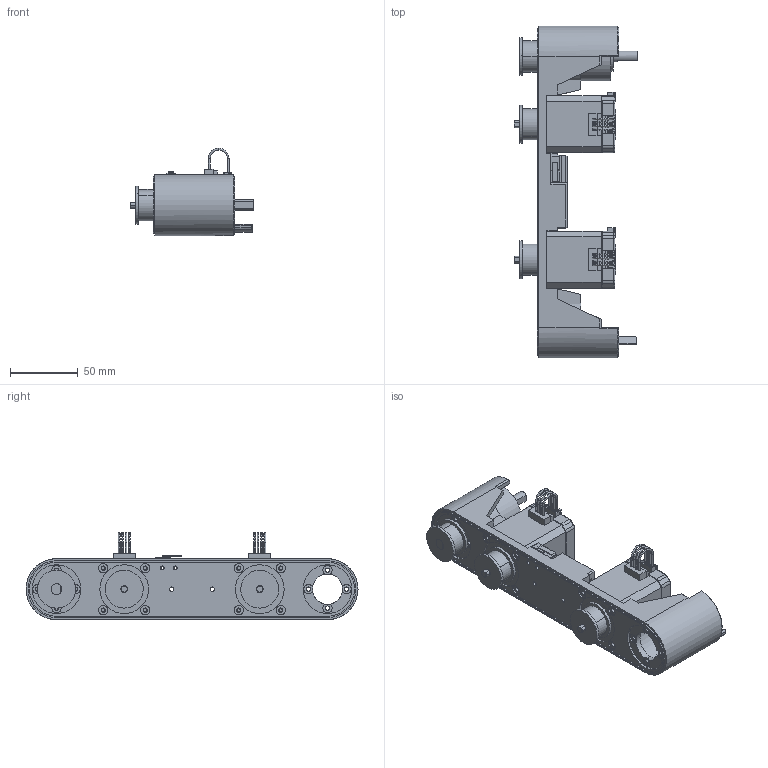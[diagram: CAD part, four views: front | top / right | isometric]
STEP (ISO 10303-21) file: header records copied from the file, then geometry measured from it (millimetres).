
FILE_DESCRIPTION(('Open CASCADE Model'),'2;1');
FILE_NAME('Open CASCADE Shape Model','2026-09-19T11:07:54',('Author'),( 'Open CASCADE'),'Open CASCADE STEP processor 7.9','Open CASCADE 7.9' ,'Unknown');
FILE_SCHEMA(('AUTOMOTIVE_DESIGN { 1 0 10303 214 1 1 1 1 }'));
Length unit declared in the file: millimetre
Products named in the file (33): Open CASCADE STEP translator 7.9 53; Open CASCADE STEP translator 7.9 53.1; Open CASCADE STEP translator 7.9 53.1.1; Open CASCADE STEP translator 7.9 53.1.1.1; Open CASCADE STEP translator 7.9 53.1.1.1.1; Open CASCADE STEP translator 7.9 53.1.1.1.2; Open CASCADE STEP translator 7.9 53.1.1.1.3; Open CASCADE STEP translator 7.9 53.1.1.1.3.1; Open CASCADE STEP translator 7.9 53.1.1.1.3.1.1; Open CASCADE STEP translator 7.9 53.1.1.1.3.1.2; Open CASCADE STEP translator 7.9 53.1.1.1.3.1.3; Open CASCADE STEP translator 7.9 53.1.1.1.4; Open CASCADE STEP translator 7.9 53.1.1.1.5; Open CASCADE STEP translator 7.9 53.1.1.1.5.1; Open CASCADE STEP translator 7.9 53.1.1.1.5.2; Open CASCADE STEP translator 7.9 53.1.1.1.6; Open CASCADE STEP translator 7.9 53.1.1.2; Open CASCADE STEP translator 7.9 53.1.1.2.1; Open CASCADE STEP translator 7.9 53.1.1.2.2; Open CASCADE STEP translator 7.9 53.1.1.3; Open CASCADE STEP translator 7.9 53.1.1.7; Open CASCADE STEP translator 7.9 53.1.1.11; Open CASCADE STEP translator 7.9 53.1.1.12; Open CASCADE STEP translator 7.9 53.1.1.12.1; Open CASCADE STEP translator 7.9 53.1.1.12.2; Open CASCADE STEP translator 7.9 53.1.1.12.3; Open CASCADE STEP translator 7.9 53.1.1.12.4; Open CASCADE STEP translator 7.9 53.3; Open CASCADE STEP translator 7.9 53.4; Open CASCADE STEP translator 7.9 53.5; Open CASCADE STEP translator 7.9 53.7; Open CASCADE STEP translator 7.9 53.8; Open CASCADE STEP translator 7.9 53.9
Assembly tree (41 placements, depth 7):
  Open CASCADE STEP translator 7.9 53
    Open CASCADE STEP translator 7.9 53.1  x2
      Open CASCADE STEP translator 7.9 53.1.1
        Open CASCADE STEP translator 7.9 53.1.1.1
          Open CASCADE STEP translator 7.9 53.1.1.1.1
          Open CASCADE STEP translator 7.9 53.1.1.1.2
          Open CASCADE STEP translator 7.9 53.1.1.1.3
            Open CASCADE STEP translator 7.9 53.1.1.1.3.1
              Open CASCADE STEP translator 7.9 53.1.1.1.3.1.1
              Open CASCADE STEP translator 7.9 53.1.1.1.3.1.2
              Open CASCADE STEP translator 7.9 53.1.1.1.3.1.3
          Open CASCADE STEP translator 7.9 53.1.1.1.4
          Open CASCADE STEP translator 7.9 53.1.1.1.5
            Open CASCADE STEP translator 7.9 53.1.1.1.5.1
            Open CASCADE STEP translator 7.9 53.1.1.1.5.2
          Open CASCADE STEP translator 7.9 53.1.1.1.6
        Open CASCADE STEP translator 7.9 53.1.1.2
          Open CASCADE STEP translator 7.9 53.1.1.2.1
          Open CASCADE STEP translator 7.9 53.1.1.2.2
        Open CASCADE STEP translator 7.9 53.1.1.3  x4
        Open CASCADE STEP translator 7.9 53.1.1.7  x4
        Open CASCADE STEP translator 7.9 53.1.1.11
        Open CASCADE STEP translator 7.9 53.1.1.12
          Open CASCADE STEP translator 7.9 53.1.1.12.1
          Open CASCADE STEP translator 7.9 53.1.1.12.2
          Open CASCADE STEP translator 7.9 53.1.1.12.3
          Open CASCADE STEP translator 7.9 53.1.1.12.4
    Open CASCADE STEP translator 7.9 53.3
    Open CASCADE STEP translator 7.9 53.4  x2
    Open CASCADE STEP translator 7.9 53.5
    Open CASCADE STEP translator 7.9 53.7
    Open CASCADE STEP translator 7.9 53.8
    Open CASCADE STEP translator 7.9 53.9  x2
Bounding box: 91 x 245 x 64.4 mm (x, y, z)
Volume: 343072.1 mm3; surface area: 128184.5 mm2
Topology: 56 solids, 56 shells, 4898 faces, 13287 edges, 8742 vertices
Faces by surface type: plane 3682, cylinder 1009, bspline 122, torus 56, cone 29
Entity records: 170212 total; most frequent: CARTESIAN_POINT 35636, DIRECTION 24973, LINE 17578, VECTOR 17578, ORIENTED_EDGE 13296, PCURVE 13296, DEFINITIONAL_REPRESENTATION 13296, EDGE_CURVE 6648
